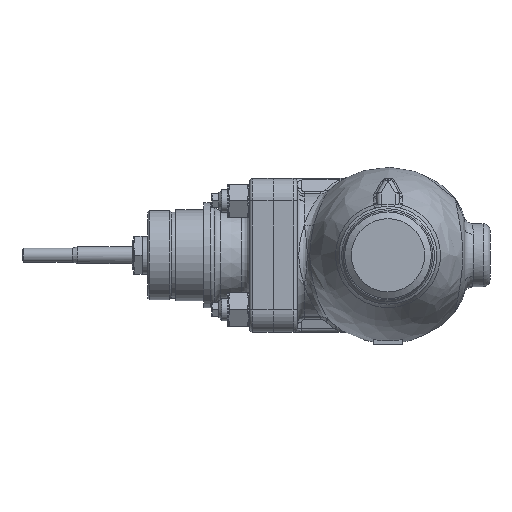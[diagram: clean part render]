
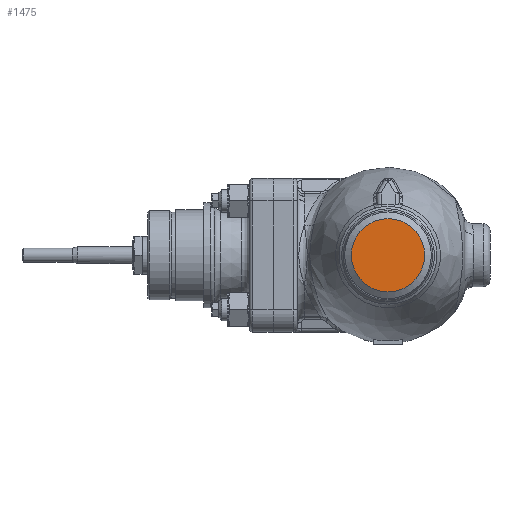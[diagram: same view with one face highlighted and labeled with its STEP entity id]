
A CAD part, left-side view. The second image highlights one B-rep face of the part: STEP entity #1475.
In plain terms, the highlighted planar face has unit normal (-1, 0, 0).
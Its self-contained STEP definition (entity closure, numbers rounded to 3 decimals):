
#213=PLANE('',#6056);
#342=FACE_OUTER_BOUND('',#2208,.T.);
#1475=ADVANCED_FACE('',(#342),#213,.T.);
#2208=EDGE_LOOP('',(#2826));
#2826=ORIENTED_EDGE('',*,*,#4985,.T.);
#4454=VERTEX_POINT('',#9276);
#4985=EDGE_CURVE('',#4454,#4454,#5729,.T.);
#5729=CIRCLE('',#6055,26.2);
#6055=AXIS2_PLACEMENT_3D('',#9275,#6803,#6804);
#6056=AXIS2_PLACEMENT_3D('',#9277,#6805,#6806);
#6803=DIRECTION('',(-1.,0.,0.));
#6804=DIRECTION('',(0.,0.,1.));
#6805=DIRECTION('',(-1.,0.,0.));
#6806=DIRECTION('',(0.,0.,1.));
#9275=CARTESIAN_POINT('',(-143.,0.,0.));
#9276=CARTESIAN_POINT('',(-143.,0.,26.2));
#9277=CARTESIAN_POINT('',(-143.,24.6,0.));
